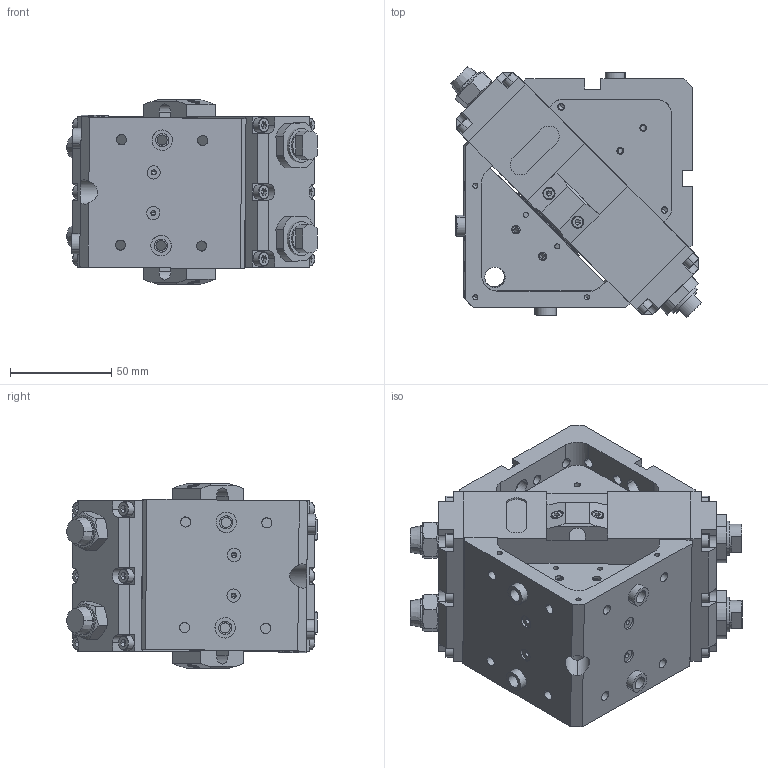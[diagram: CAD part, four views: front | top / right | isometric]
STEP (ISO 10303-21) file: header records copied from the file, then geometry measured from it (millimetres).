
FILE_DESCRIPTION (( 'STEP AP214' ), '1' );
FILE_NAME ('PAS25E.STEP', '2016-01-05T04:25:47', ( 'Registered User' ), ( 'Microsoft Corporation' ), 'SwSTEP 2.0', 'SolidWorks 2015', '' );
FILE_SCHEMA (( 'AUTOMOTIVE_DESIGN' ));
Length unit declared in the file: millimetre
Products named in the file (2): PAS25E
Bounding box: 123.47 x 123.47 x 91 mm (x, y, z)
Volume: 711086.5 mm3; surface area: 225027.3 mm2
Topology: 44 solids, 44 shells, 2333 faces, 6402 edges, 3944 vertices
Faces by surface type: cylinder 976, plane 721, cone 315, torus 227, sphere 94
Entity records: 102900 total; most frequent: CARTESIAN_POINT 19937, ORIENTED_EDGE 11950, DIRECTION 11937, EDGE_CURVE 5975, AXIS2_PLACEMENT_3D 4797, VERTEX_POINT 3803, EDGE_LOOP 2738, CIRCLE 2462
